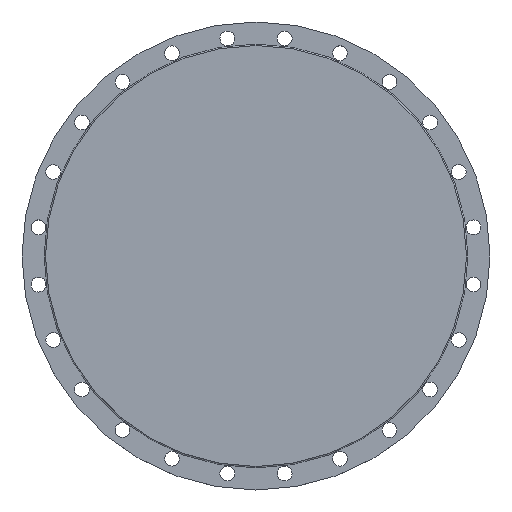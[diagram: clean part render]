
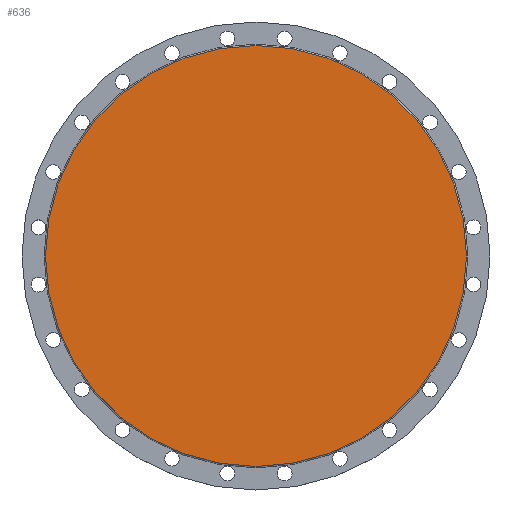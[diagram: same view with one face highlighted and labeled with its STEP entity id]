
A CAD part, top view. The second image highlights one B-rep face of the part: STEP entity #636.
In plain terms, the highlighted planar face has unit normal (0, 0, 1).
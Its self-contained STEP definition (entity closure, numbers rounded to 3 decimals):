
#140=PLANE('',#742);
#169=FACE_OUTER_BOUND('',#223,.T.);
#223=EDGE_LOOP('',(#580,#581));
#251=CIRCLE('',#661,470.);
#252=CIRCLE('',#662,470.);
#308=VERTEX_POINT('',#948);
#309=VERTEX_POINT('',#950);
#364=EDGE_CURVE('',#309,#308,#251,.T.);
#365=EDGE_CURVE('',#308,#309,#252,.T.);
#580=ORIENTED_EDGE('',*,*,#364,.T.);
#581=ORIENTED_EDGE('',*,*,#365,.T.);
#636=ADVANCED_FACE('',(#169),#140,.T.);
#661=AXIS2_PLACEMENT_3D('',#951,#752,#753);
#662=AXIS2_PLACEMENT_3D('',#952,#754,#755);
#742=AXIS2_PLACEMENT_3D('',#1109,#939,#940);
#752=DIRECTION('center_axis',(0.,0.,1.));
#753=DIRECTION('ref_axis',(-1.,0.,0.));
#754=DIRECTION('center_axis',(0.,0.,1.));
#755=DIRECTION('ref_axis',(-1.,0.,0.));
#939=DIRECTION('center_axis',(0.,0.,1.));
#940=DIRECTION('ref_axis',(1.,0.,0.));
#948=CARTESIAN_POINT('',(-470.,0.,28.));
#950=CARTESIAN_POINT('',(470.,0.,28.));
#951=CARTESIAN_POINT('Origin',(0.,0.,28.));
#952=CARTESIAN_POINT('Origin',(0.,0.,28.));
#1109=CARTESIAN_POINT('Origin',(0.,0.,28.));
